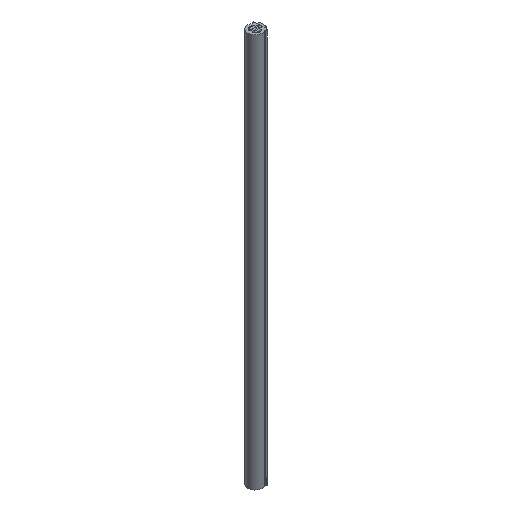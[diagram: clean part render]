
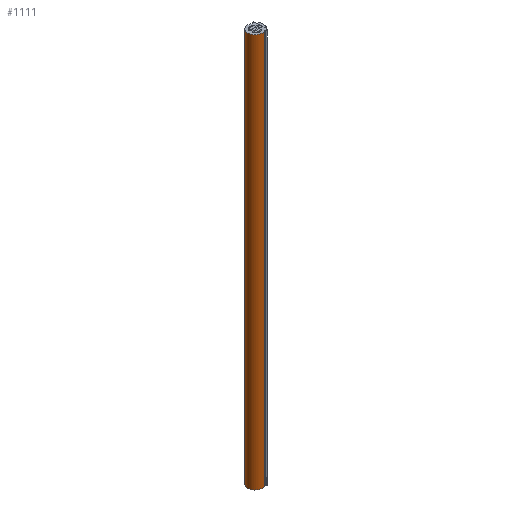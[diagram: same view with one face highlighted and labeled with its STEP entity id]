
A CAD part, isometric view. The second image highlights one B-rep face of the part: STEP entity #1111.
In plain terms, the highlighted cylindrical face has radius 9 mm (diameter 18 mm), a partial arc.
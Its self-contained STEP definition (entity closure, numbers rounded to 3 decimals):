
#154=CARTESIAN_POINT('',(4.39,7.848,500.0));
#155=VERTEX_POINT('',#154);
#173=CARTESIAN_POINT('',(4.39,7.848,0.0));
#174=VERTEX_POINT('',#173);
#182=CARTESIAN_POINT('',(4.39,7.848,0.0));
#183=DIRECTION('',(0.0,0.0,1.0));
#184=VECTOR('',#183,500.0);
#185=LINE('',#182,#184);
#186=EDGE_CURVE('',#174,#155,#185,.T.);
#1060=CARTESIAN_POINT('',(4.39,-7.725,500.0));
#1061=VERTEX_POINT('',#1060);
#1069=CARTESIAN_POINT('',(4.39,-7.725,0.0));
#1070=VERTEX_POINT('',#1069);
#1071=CARTESIAN_POINT('',(4.39,-7.725,0.0));
#1072=DIRECTION('',(0.0,0.0,1.0));
#1073=VECTOR('',#1072,500.0);
#1074=LINE('',#1071,#1073);
#1075=EDGE_CURVE('',#1070,#1061,#1074,.T.);
#1088=CARTESIAN_POINT('',(-0.123,0.061,0.0));
#1089=DIRECTION('',(0.0,0.0,1.0));
#1090=DIRECTION('',(0.501,0.865,0.0));
#1091=AXIS2_PLACEMENT_3D('',#1088,#1089,#1090);
#1092=CYLINDRICAL_SURFACE('',#1091,9.0);
#1093=CARTESIAN_POINT('',(-0.123,0.061,500.0));
#1094=DIRECTION('',(0.0,0.0,-1.));
#1095=DIRECTION('',(0.501,0.865,0.0));
#1096=AXIS2_PLACEMENT_3D('',#1093,#1094,#1095);
#1097=CIRCLE('',#1096,9.0);
#1098=EDGE_CURVE('',#1061,#155,#1097,.T.);
#1099=ORIENTED_EDGE('',*,*,#1098,.T.);
#1100=ORIENTED_EDGE('',*,*,#186,.F.);
#1101=CARTESIAN_POINT('',(-0.123,0.061,0.0));
#1102=DIRECTION('',(0.0,0.0,1.));
#1103=DIRECTION('',(0.501,0.865,0.0));
#1104=AXIS2_PLACEMENT_3D('',#1101,#1102,#1103);
#1105=CIRCLE('',#1104,9.0);
#1106=EDGE_CURVE('',#174,#1070,#1105,.T.);
#1107=ORIENTED_EDGE('',*,*,#1106,.T.);
#1108=ORIENTED_EDGE('',*,*,#1075,.T.);
#1109=EDGE_LOOP('',(#1099,#1100,#1107,#1108));
#1110=FACE_OUTER_BOUND('',#1109,.T.);
#1111=ADVANCED_FACE('',(#1110),#1092,.T.);
